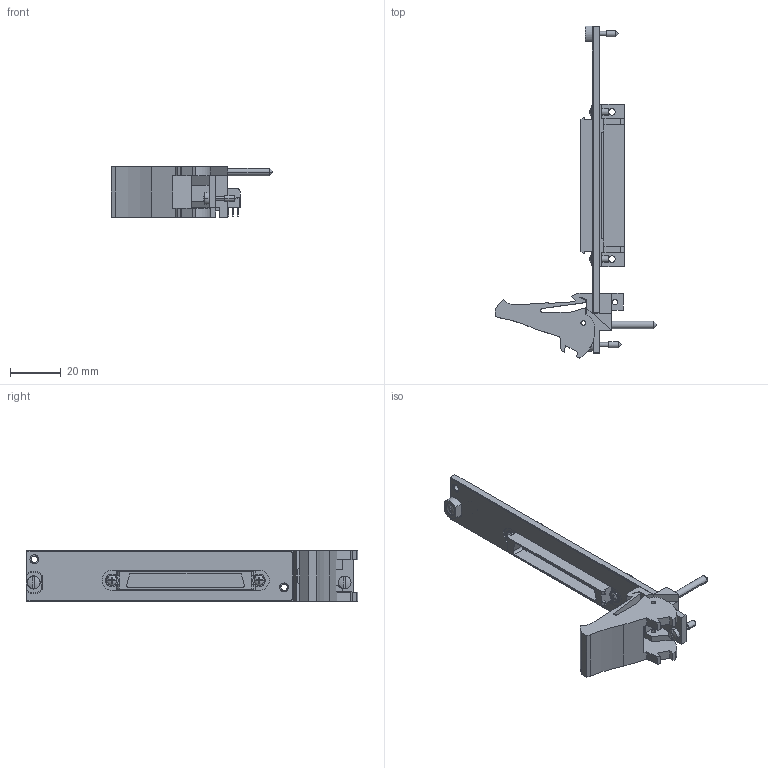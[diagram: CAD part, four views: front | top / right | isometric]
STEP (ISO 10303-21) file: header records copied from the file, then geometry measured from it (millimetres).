
FILE_DESCRIPTION((''),'2;1');
FILE_NAME('CU_PXI-MOD-68POS-SCSI-1','2007-09-12T',('chrisj'),(''),'PRO/ENGINEER BY PARAMETRIC TECHNOLOGY CORPORATION, 2006300','PRO/ENGINEER BY PARAMETRIC TECHNOLOGY CORPORATION, 2006300','');
FILE_SCHEMA(('AUTOMOTIVE_DESIGN_CC2 { 1 2 10303 214 -1 1 5 2 }'));
Length unit declared in the file: inch
Products named in the file (1): CU_PXI-MOD-68POS-SCSI-1
Bounding box: 63.53 x 130.62 x 20.02 mm (x, y, z)
Volume: 16762.2 mm3; surface area: 15187.6 mm2
Topology: 1 solids, 1 shells, 370 faces, 990 edges, 649 vertices
Faces by surface type: plane 243, cylinder 111, cone 8, sphere 8
Entity records: 11685 total; most frequent: CARTESIAN_POINT 2083, DIRECTION 2001, ORIENTED_EDGE 1972, EDGE_CURVE 986, VECTOR 705, LINE 705, VERTEX_POINT 649, AXIS2_PLACEMENT_3D 648
